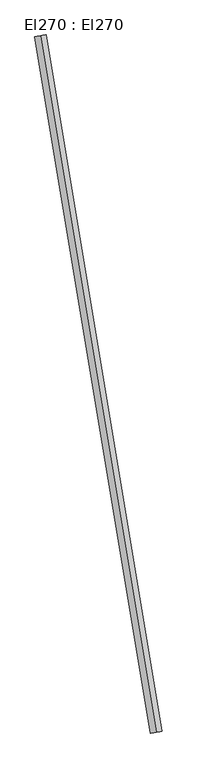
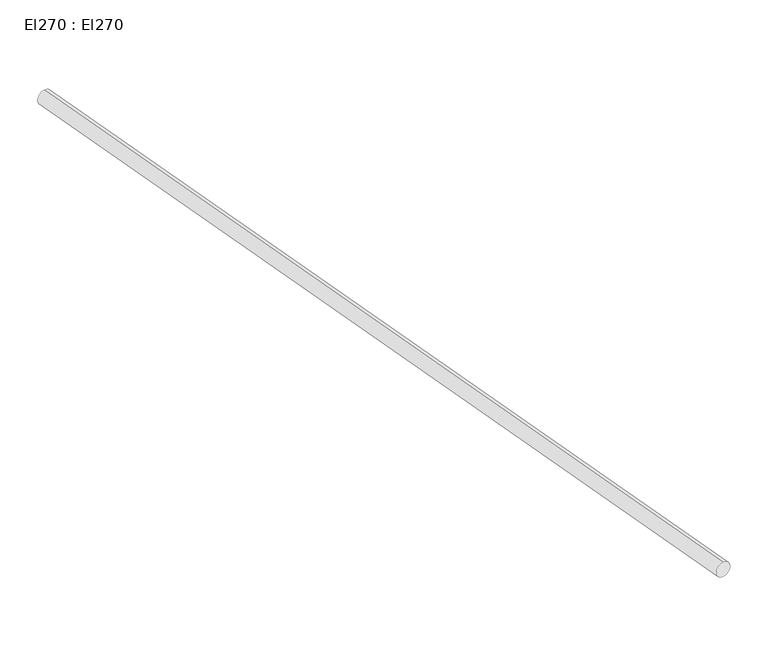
"""IFC4 building model written with IfcOpenShell, lengths in millimetres: cable carrier segment geometry, El270 : El270."""

from ifc_helpers import new_model, si_unit, point, frame, frame_2d, origin, place, context, project, spatial, circle_curve, trimmed, segment, composite_curve, outline, extrude, source, transform, mapped, element, save


def el270_el270_0204e3cc(model_context):
    return source(origin(), model_context, "Body", "SweptSolid", [
        extrude(outline(composite_curve([segment(trimmed(circle_curve(frame_2d((0.0, -12.0)), 12.0), [point((0.0, -24.0))], [point((0.0, 0.0))], False, "CARTESIAN"), True, "CONTINUOUS"), segment(trimmed(circle_curve(frame_2d((0.0, -12.0)), 12.0), [point((0.0, 0.0))], [point((0.0, -24.0))], False, "CARTESIAN"), True, "CONTINUOUS")], self_intersect=False)), frame((7844.938, 29102.759, 2962.0), z_axis=(-0.1644309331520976, 0.9863885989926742, 0.0), x_axis=(-0.9863885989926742, -0.1644309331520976, 0.0)), (0.0, 0.0, 1.0), 1463.2),
    ])


if __name__ == "__main__":
    model = new_model("IFC4")
    model_context = context("Model", 3, world=origin())
    ifc_project = project(units=[si_unit("LENGTHUNIT", "METRE", prefix="MILLI")], contexts=[model_context])
    site = spatial("IfcSite", under=ifc_project)
    building = spatial("IfcBuilding", under=site)
    placement = place(None, origin())
    el270_el270_shape = el270_el270_0204e3cc(model_context)
    element("IfcCableCarrierSegment", 1, ObjectType="El270 : El270", at=placement, inside=building, context=model_context, shape_type="MappedRepresentation", body=[
        mapped(el270_el270_shape, transform((0.0, 0.0, 0.0), x_axis=(1.0, 0.0, 0.0), y_axis=(0.0, 1.0, 0.0), z_axis=(0.0, 0.0, 1.0))),
    ])
    save(model, "model.ifc")
